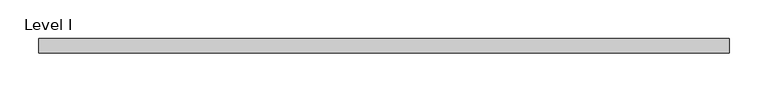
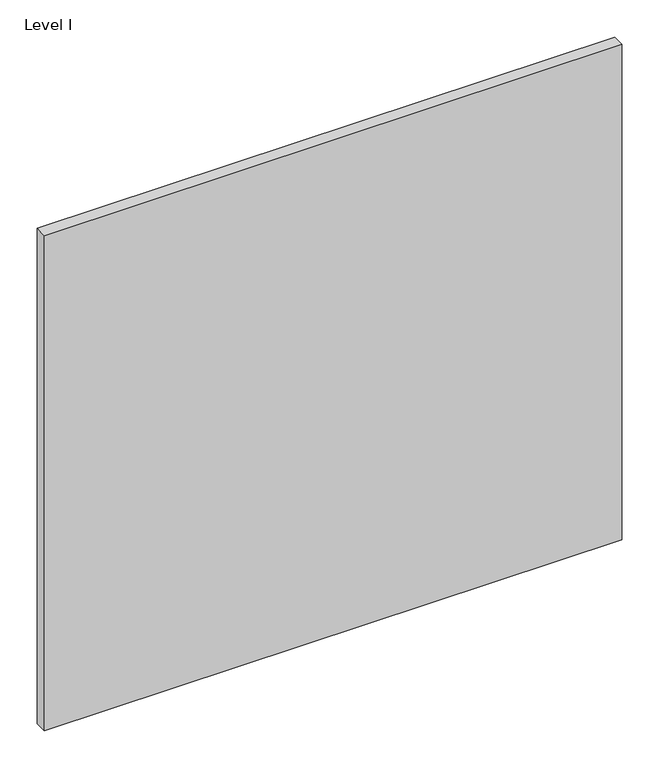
"""IFC4 building model written with IfcOpenShell, lengths in millimetres: proxy geometry, Panel-Fascia-Teknion-Altos-Standard : Level I."""

from ifc_helpers import new_model, si_unit, frame, origin, place, context, project, spatial, polyline, outline, extrude, source, transform, mapped, element, save


def level_i_cf48de54(model_context):
    return source(origin(), model_context, "Body", "SweptSolid", [
        extrude(outline(polyline([(447.0300781, -9.525), (-447.0300781, -9.525), (-447.0300781, 9.525), (447.0300781, 9.525), (447.0300781, -9.525)])), frame((0.0, 0.0, 3.175), z_axis=(0.0, 0.0, 1.0), x_axis=(1.0, 0.0, 0.0)), (0.0, 0.0, 1.0), 810.768),
    ])


if __name__ == "__main__":
    model = new_model("IFC4")
    model_context = context("Model", 3, world=origin())
    ifc_project = project(units=[si_unit("LENGTHUNIT", "METRE", prefix="MILLI")], contexts=[model_context])
    site = spatial("IfcSite", under=ifc_project)
    building = spatial("IfcBuilding", under=site)
    placement = place(None, origin())
    level_i_shape = level_i_cf48de54(model_context)
    element("IfcBuildingElementProxy", 1, Name="Panel-Fascia-Teknion-Altos-Standard : Level I", ObjectType="Panel-Fascia-Teknion-Altos-Standard : Level I", at=placement, inside=building, context=model_context, shape_type="MappedRepresentation", body=[
        mapped(level_i_shape, transform((0.0, 0.0, 0.0), x_axis=(1.0, 0.0, 0.0), y_axis=(0.0, 1.0, 0.0), z_axis=(0.0, 0.0, 1.0))),
    ])
    save(model, "model.ifc")
